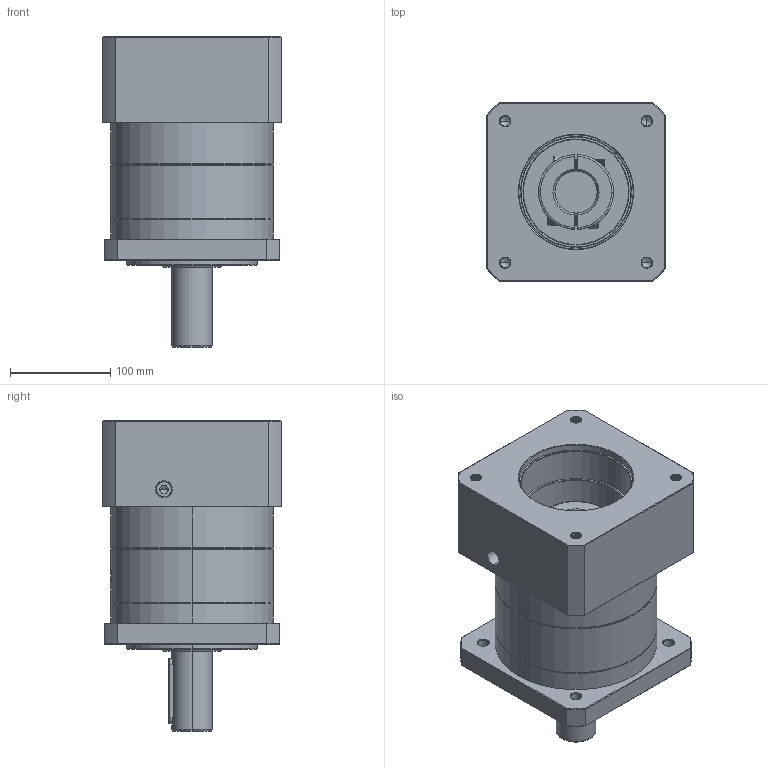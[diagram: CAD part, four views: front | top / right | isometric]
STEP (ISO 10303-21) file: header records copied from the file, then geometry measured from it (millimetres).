
FILE_DESCRIPTION (( 'STEP AP214' ), '1' );
FILE_NAME ('ZF160A-D40-L1-P2-42-114.3-200-M12.step', '2023-09-03T06:58:26', ( '' ), ( '' ), 'SwSTEP 2.0', 'SolidWorks 2016', '' );
FILE_SCHEMA (( 'AUTOMOTIVE_DESIGN' ));
Length unit declared in the file: millimetre
Products named in the file (1): ZF160A-D40-L1-P2-42-114.3-200-M12
Bounding box: 178 x 178 x 310.2 mm (x, y, z)
Volume: 5085156.3 mm3; surface area: 360235 mm2
Topology: 5 solids, 5 shells, 2180 faces, 5883 edges, 3810 vertices
Faces by surface type: plane 1015, bspline 411, cylinder 409, cone 323, torus 22
Entity records: 125275 total; most frequent: CARTESIAN_POINT 51648, ORIENTED_EDGE 11706, DIRECTION 8554, EDGE_CURVE 5853, VERTEX_POINT 3810, VECTOR 3046, LINE 3046, AXIS2_PLACEMENT_3D 2754
